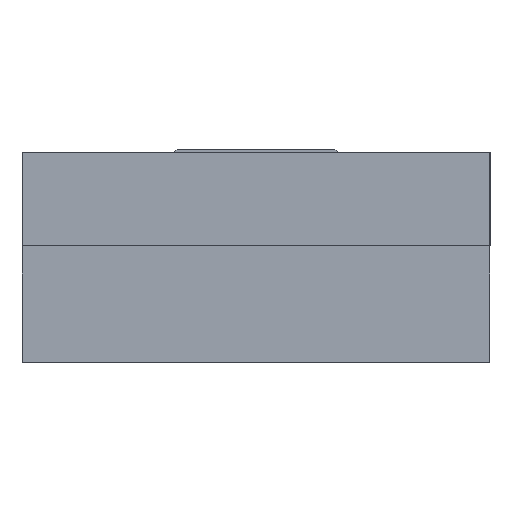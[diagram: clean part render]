
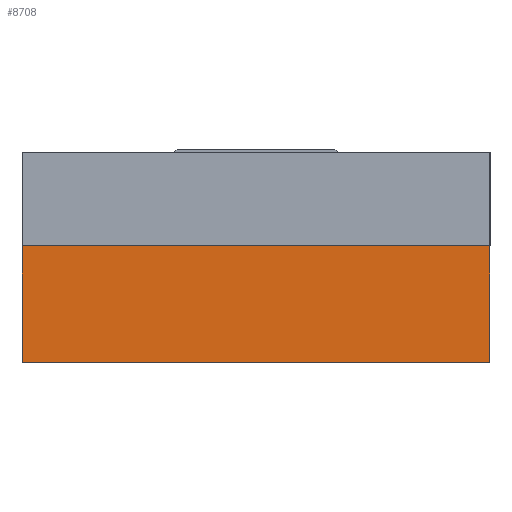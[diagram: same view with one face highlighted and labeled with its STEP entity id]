
A CAD part, front view. The second image highlights one B-rep face of the part: STEP entity #8708.
In plain terms, the highlighted planar face has unit normal (0, -1, 0).
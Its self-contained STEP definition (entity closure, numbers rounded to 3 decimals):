
#456 = CARTESIAN_POINT ( 'NONE',  ( 20., -20., -10. ) ) ;
#492 = CARTESIAN_POINT ( 'NONE',  ( -20., -20., 0. ) ) ;
#536 = VERTEX_POINT ( 'NONE', #492 ) ;
#867 = DIRECTION ( 'NONE',  ( 1., 0., 0. ) ) ;
#956 = CARTESIAN_POINT ( 'NONE',  ( 20., -20., -10. ) ) ;
#970 = EDGE_CURVE ( 'NONE', #536, #3036, #1097, .T. ) ;
#1097 = LINE ( 'NONE', #1195, #2049 ) ;
#1121 = VECTOR ( 'NONE', #2624, 1000. ) ;
#1195 = CARTESIAN_POINT ( 'NONE',  ( -20., -20., 0. ) ) ;
#1737 = VERTEX_POINT ( 'NONE', #7640 ) ;
#1853 = ORIENTED_EDGE ( 'NONE', *, *, #970, .F. ) ;
#2049 = VECTOR ( 'NONE', #2453, 1000. ) ;
#2192 = DIRECTION ( 'NONE',  ( 0., 0., -1. ) ) ;
#2453 = DIRECTION ( 'NONE',  ( 1., 0., 0. ) ) ;
#2542 = DIRECTION ( 'NONE',  ( 1., 0., 0. ) ) ;
#2624 = DIRECTION ( 'NONE',  ( 0., 0., -1. ) ) ;
#2892 = CARTESIAN_POINT ( 'NONE',  ( -20., -20., -10. ) ) ;
#3036 = VERTEX_POINT ( 'NONE', #6940 ) ;
#3343 = VECTOR ( 'NONE', #2192, 1000. ) ;
#3618 = VERTEX_POINT ( 'NONE', #8393 ) ;
#3780 = ORIENTED_EDGE ( 'NONE', *, *, #5861, .T. ) ;
#4000 = FACE_OUTER_BOUND ( 'NONE', #9060, .T. ) ;
#4248 = VECTOR ( 'NONE', #867, 1000. ) ;
#5576 = DIRECTION ( 'NONE',  ( 0., -1., 0. ) ) ;
#5803 = EDGE_CURVE ( 'NONE', #536, #1737, #7972, .T. ) ;
#5861 = EDGE_CURVE ( 'NONE', #1737, #3618, #8118, .T. ) ;
#6020 = ORIENTED_EDGE ( 'NONE', *, *, #6471, .F. ) ;
#6471 = EDGE_CURVE ( 'NONE', #3036, #3618, #6939, .T. ) ;
#6789 = ORIENTED_EDGE ( 'NONE', *, *, #5803, .T. ) ;
#6805 = PLANE ( 'NONE',  #7383 ) ;
#6899 = CARTESIAN_POINT ( 'NONE',  ( -20., -20., -10. ) ) ;
#6939 = LINE ( 'NONE', #456, #1121 ) ;
#6940 = CARTESIAN_POINT ( 'NONE',  ( 20., -20., 0. ) ) ;
#7383 = AXIS2_PLACEMENT_3D ( 'NONE', #6899, #5576, #2542 ) ;
#7640 = CARTESIAN_POINT ( 'NONE',  ( -20., -20., -10. ) ) ;
#7972 = LINE ( 'NONE', #2892, #3343 ) ;
#8118 = LINE ( 'NONE', #956, #4248 ) ;
#8393 = CARTESIAN_POINT ( 'NONE',  ( 20., -20., -10. ) ) ;
#8708 = ADVANCED_FACE ( 'NONE', ( #4000 ), #6805, .T. ) ;
#9060 = EDGE_LOOP ( 'NONE', ( #3780, #6020, #1853, #6789 ) ) ;
